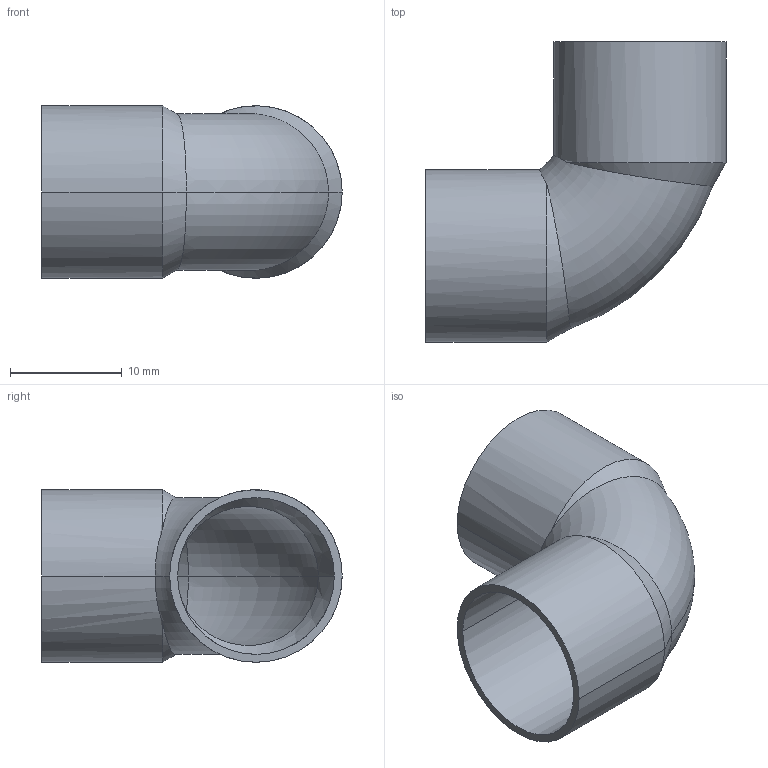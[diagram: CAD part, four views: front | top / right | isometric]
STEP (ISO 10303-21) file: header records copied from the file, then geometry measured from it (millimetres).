
FILE_DESCRIPTION((''),'2;1');
FILE_NAME('G:\SANHA-TERNAT\Technik\Deckel\UUU\Producttek\1509014\1509014(0).stp','2007-07-24T15:47:32',('vdvijverd'),(''),'Autodesk Inventor 8','Autodesk Inventor 8','');
FILE_SCHEMA(('AUTOMOTIVE_DESIGN { 1 0 10303 214 1 1 1 1 }'));
Length unit declared in the file: millimetre
Products named in the file (1): 1509014(0)
Bounding box: 26.82 x 26.82 x 15.4 mm (x, y, z)
Volume: 1092.5 mm3; surface area: 3072.8 mm2
Topology: 1 solids, 1 shells, 22 faces, 49 edges, 29 vertices
Faces by surface type: bspline 9, torus 4, cone 4, cylinder 4, plane 1
Entity records: 877 total; most frequent: CARTESIAN_POINT 412, ORIENTED_EDGE 98, DIRECTION 82, EDGE_CURVE 49, AXIS2_PLACEMENT_3D 35, VERTEX_POINT 29, EDGE_LOOP 24, FACE_OUTER_BOUND 22
